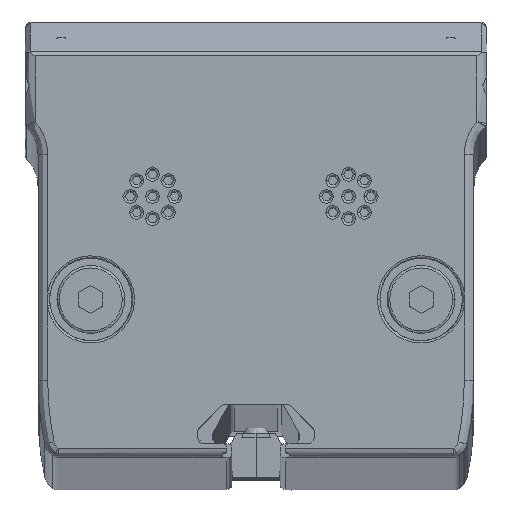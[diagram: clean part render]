
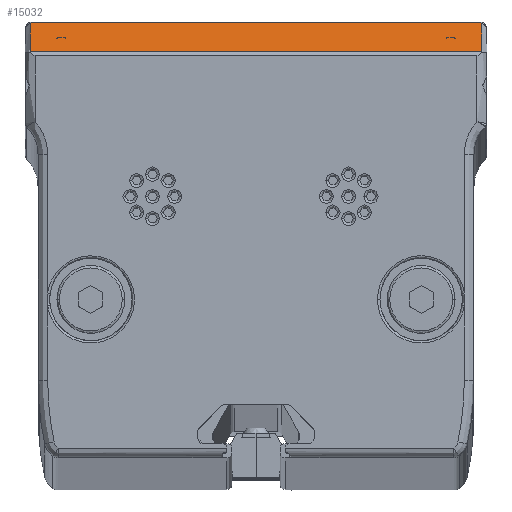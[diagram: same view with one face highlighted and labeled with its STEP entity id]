
A CAD part, top view. The second image highlights one B-rep face of the part: STEP entity #15032.
In plain terms, the highlighted planar face has unit normal (0, 0.858, 0.514).
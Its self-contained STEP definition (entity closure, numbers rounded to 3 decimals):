
#858 = ORIENTED_EDGE ( 'NONE', *, *, #4672, .T. ) ;
#929 = VECTOR ( 'NONE', #16158, 1000. ) ;
#955 = CARTESIAN_POINT ( 'NONE',  ( -23.215, 22.429, 1879.914 ) ) ;
#1170 = VERTEX_POINT ( 'NONE', #955 ) ;
#1901 = LINE ( 'NONE', #20307, #15712 ) ;
#1933 =( BOUNDED_CURVE ( )  B_SPLINE_CURVE ( 3, ( #15524, #8547, #6421, #5848 ),
 .UNSPECIFIED., .F., .T. ) 
 B_SPLINE_CURVE_WITH_KNOTS ( ( 4, 4 ),
 ( 4.712, 6.283 ),
 .UNSPECIFIED. ) 
 CURVE ( )  GEOMETRIC_REPRESENTATION_ITEM ( )  RATIONAL_B_SPLINE_CURVE ( ( 1., 0.805, 0.805, 1. ) ) 
 REPRESENTATION_ITEM ( '' )  );
#2514 = DIRECTION ( 'NONE',  ( 0., -0.857, -0.514 ) ) ;
#2541 =( BOUNDED_CURVE ( )  B_SPLINE_CURVE ( 3, ( #20226, #10900, #24460, #20066 ),
 .UNSPECIFIED., .F., .F. ) 
 B_SPLINE_CURVE_WITH_KNOTS ( ( 4, 4 ),
 ( 0., 1.571 ),
 .UNSPECIFIED. ) 
 CURVE ( )  GEOMETRIC_REPRESENTATION_ITEM ( )  RATIONAL_B_SPLINE_CURVE ( ( 1., 0.805, 0.805, 1. ) ) 
 REPRESENTATION_ITEM ( '' )  );
#3980 = DIRECTION ( 'NONE',  ( 0., 0.514, -0.857 ) ) ;
#4126 = CARTESIAN_POINT ( 'NONE',  ( 23.315, 19.287, 1885.15 ) ) ;
#4166 = CARTESIAN_POINT ( 'NONE',  ( 23.215, 22.429, 1879.914 ) ) ;
#4672 = EDGE_CURVE ( 'NONE', #20373, #19496, #13193, .T. ) ;
#4944 = CARTESIAN_POINT ( 'NONE',  ( 23.315, 19.433, 1884.907 ) ) ;
#5081 = CARTESIAN_POINT ( 'NONE',  ( 23.82, 19.287, 1885.15 ) ) ;
#5264 = ORIENTED_EDGE ( 'NONE', *, *, #14010, .T. ) ;
#5621 = ORIENTED_EDGE ( 'NONE', *, *, #16951, .T. ) ;
#5848 = CARTESIAN_POINT ( 'NONE',  ( 23.215, 22.429, 1879.914 ) ) ;
#6244 = CARTESIAN_POINT ( 'NONE',  ( -23.315, 19.433, 1884.907 ) ) ;
#6304 = EDGE_CURVE ( 'NONE', #19496, #24671, #1933, .T. ) ;
#6421 = CARTESIAN_POINT ( 'NONE',  ( 23.274, 22.429, 1879.914 ) ) ;
#6575 = ORIENTED_EDGE ( 'NONE', *, *, #6304, .T. ) ;
#6782 = CARTESIAN_POINT ( 'NONE',  ( -23.315, 19.287, 1885.15 ) ) ;
#7202 = FACE_OUTER_BOUND ( 'NONE', #28516, .T. ) ;
#8547 = CARTESIAN_POINT ( 'NONE',  ( 23.315, 22.387, 1879.983 ) ) ;
#8548 =( BOUNDED_CURVE ( )  B_SPLINE_CURVE ( 3, ( #8993, #4166, #13395, #22564 ),
 .UNSPECIFIED., .F., .T. ) 
 B_SPLINE_CURVE_WITH_KNOTS ( ( 4, 4 ),
 ( 6.283, 6.283 ),
 .UNSPECIFIED. ) 
 CURVE ( )  GEOMETRIC_REPRESENTATION_ITEM ( )  RATIONAL_B_SPLINE_CURVE ( ( 1., 1., 1., 1. ) ) 
 REPRESENTATION_ITEM ( '' )  );
#8893 = LINE ( 'NONE', #6782, #929 ) ;
#8993 = CARTESIAN_POINT ( 'NONE',  ( 23.215, 22.429, 1879.914 ) ) ;
#9467 = PLANE ( 'NONE',  #19992 ) ;
#9840 = ORIENTED_EDGE ( 'NONE', *, *, #14038, .T. ) ;
#10187 = EDGE_CURVE ( 'NONE', #13183, #20373, #14601, .T. ) ;
#10900 = CARTESIAN_POINT ( 'NONE',  ( -23.274, 22.429, 1879.914 ) ) ;
#11640 = CARTESIAN_POINT ( 'NONE',  ( -23.315, 22.329, 1880.08 ) ) ;
#12219 = EDGE_CURVE ( 'NONE', #28373, #13183, #8893, .T. ) ;
#13183 = VERTEX_POINT ( 'NONE', #6244 ) ;
#13193 = LINE ( 'NONE', #4126, #27829 ) ;
#13395 = CARTESIAN_POINT ( 'NONE',  ( 23.215, 22.429, 1879.914 ) ) ;
#14010 = EDGE_CURVE ( 'NONE', #24671, #16981, #8548, .T. ) ;
#14038 = EDGE_CURVE ( 'NONE', #16981, #1170, #1901, .T. ) ;
#14601 = LINE ( 'NONE', #17306, #28382 ) ;
#14619 = CARTESIAN_POINT ( 'NONE',  ( 23.315, 22.329, 1880.08 ) ) ;
#14742 = DIRECTION ( 'NONE',  ( 1., 0., 0. ) ) ;
#15032 = ADVANCED_FACE ( 'NONE', ( #7202 ), #9467, .F. ) ;
#15524 = CARTESIAN_POINT ( 'NONE',  ( 23.315, 22.329, 1880.08 ) ) ;
#15712 = VECTOR ( 'NONE', #15817, 1000. ) ;
#15817 = DIRECTION ( 'NONE',  ( -1., 0., 0. ) ) ;
#16158 = DIRECTION ( 'NONE',  ( 0., -0.514, 0.857 ) ) ;
#16951 = EDGE_CURVE ( 'NONE', #1170, #28373, #2541, .T. ) ;
#16981 = VERTEX_POINT ( 'NONE', #19918 ) ;
#17306 = CARTESIAN_POINT ( 'NONE',  ( 23.82, 19.433, 1884.907 ) ) ;
#19496 = VERTEX_POINT ( 'NONE', #14619 ) ;
#19918 = CARTESIAN_POINT ( 'NONE',  ( 23.215, 22.429, 1879.914 ) ) ;
#19992 = AXIS2_PLACEMENT_3D ( 'NONE', #5081, #2514, #21353 ) ;
#20066 = CARTESIAN_POINT ( 'NONE',  ( -23.315, 22.329, 1880.08 ) ) ;
#20226 = CARTESIAN_POINT ( 'NONE',  ( -23.215, 22.429, 1879.914 ) ) ;
#20307 = CARTESIAN_POINT ( 'NONE',  ( -23.215, 22.429, 1879.914 ) ) ;
#20373 = VERTEX_POINT ( 'NONE', #4944 ) ;
#21353 = DIRECTION ( 'NONE',  ( 0., 0.514, -0.857 ) ) ;
#21967 = ORIENTED_EDGE ( 'NONE', *, *, #12219, .T. ) ;
#22447 = CARTESIAN_POINT ( 'NONE',  ( 23.215, 22.429, 1879.914 ) ) ;
#22564 = CARTESIAN_POINT ( 'NONE',  ( 23.215, 22.429, 1879.914 ) ) ;
#24460 = CARTESIAN_POINT ( 'NONE',  ( -23.315, 22.387, 1879.983 ) ) ;
#24671 = VERTEX_POINT ( 'NONE', #22447 ) ;
#27829 = VECTOR ( 'NONE', #3980, 1000. ) ;
#28373 = VERTEX_POINT ( 'NONE', #11640 ) ;
#28382 = VECTOR ( 'NONE', #14742, 1000. ) ;
#28516 = EDGE_LOOP ( 'NONE', ( #28946, #858, #6575, #5264, #9840, #5621, #21967 ) ) ;
#28946 = ORIENTED_EDGE ( 'NONE', *, *, #10187, .T. ) ;
